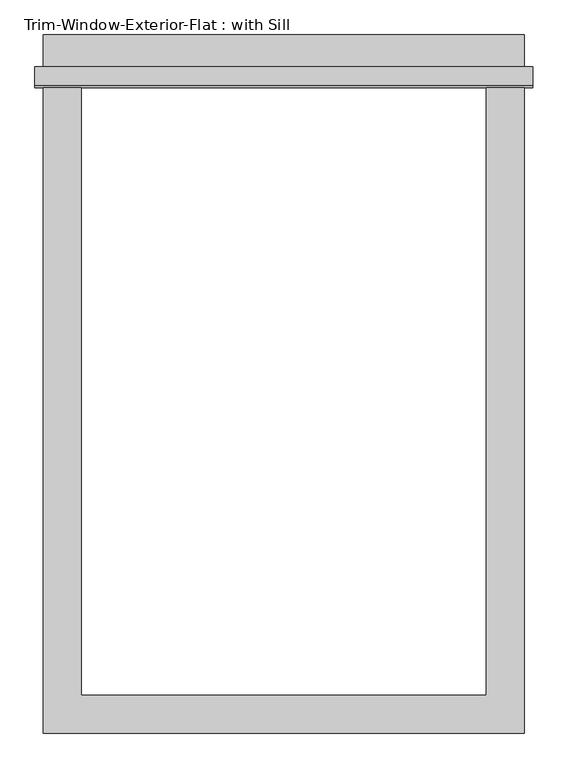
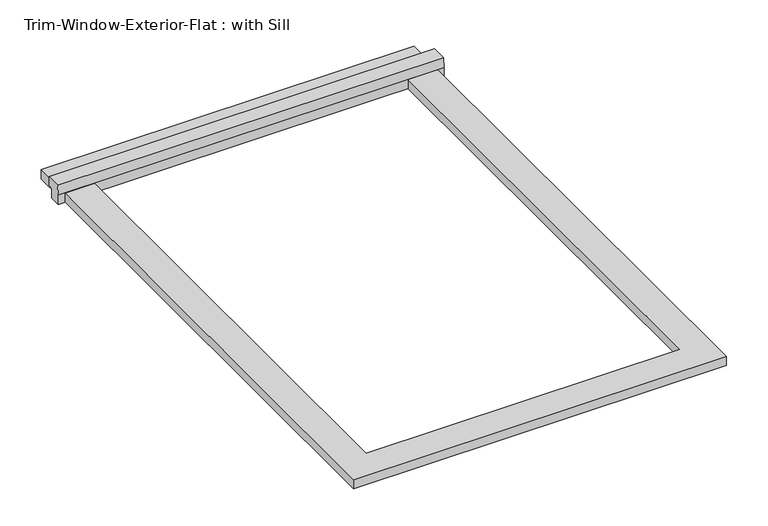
"""IFC4 building model written with IfcOpenShell, lengths in millimetres: proxy geometry, Trim-Window-Exterior-Flat : with Sill."""

import ifcopenshell
import ifcopenshell.guid

model = None  # the IFC model being written
_history = None  # IfcOwnerHistory: only IFC2X3 demands one
_inside = {}  # id of a spatial element -> (the spatial element, [elements in it])
_under = {}  # id of a project, library or spatial element -> (it, [spatial elements below it])
_declared = {}  # id of a project -> (the project, [libraries it declares])
_typed = {}  # id of a type object -> (the type object, [elements of that type])
_made_of = {}  # id of a material, layer set ... -> (it, [elements and type objects made of it])


def new_model(schema):
    """Start an empty IFC model of exactly this schema.

    Asked for "IFC4X3", IfcOpenShell would pick the latest addendum, in which some entities
    have other attributes; the version numbers below select the first issue.
    IFC2X3 requires an IfcOwnerHistory on every rooted entity: one is made here for all.
    """
    global model, _history
    if schema == "IFC4X3":
        model = ifcopenshell.file(schema_version=(4, 3, 0, 0))
    else:
        model = ifcopenshell.file(schema=schema)
    _inside.clear()
    _under.clear()
    _declared.clear()
    _typed.clear()
    _made_of.clear()
    _history = None
    if model.schema == "IFC2X3":
        org = make("IfcOrganization", Name="unknown")
        user = make(
            "IfcPersonAndOrganization",
            ThePerson=make("IfcPerson", FamilyName="unknown"),
            TheOrganization=org,
        )
        app = make(
            "IfcApplication",
            ApplicationDeveloper=org,
            Version="unknown",
            ApplicationFullName="unknown",
            ApplicationIdentifier="unknown",
        )
        _history = make(
            "IfcOwnerHistory",
            OwningUser=user,
            OwningApplication=app,
            ChangeAction="ADDED",
            CreationDate=0,
        )
    return model


def make(cls, **values):
    """One entity of the class cls with the attributes given. An attribute that is None is left unset."""
    return model.create_entity(
        cls, **{name: value for name, value in values.items() if value is not None}
    )


def rooted(cls, **values):
    """An entity with a GlobalId (a new one), such as an element, a storey or a relation."""
    return make(cls, GlobalId=ifcopenshell.guid.new(), OwnerHistory=_history, **values)


def si_unit(unit_type, name, prefix=None):
    """IfcSIUnit, for example si_unit("LENGTHUNIT", "METRE", prefix="MILLI")."""
    return make("IfcSIUnit", UnitType=unit_type, Prefix=prefix, Name=name)


def assignment(units):
    """IfcUnitAssignment: the units of a project."""
    return None if units is None else make("IfcUnitAssignment", Units=units)


def point(xyz):
    """IfcCartesianPoint."""
    return None if xyz is None else make("IfcCartesianPoint", Coordinates=xyz)


def direction(xyz):
    """IfcDirection."""
    return None if xyz is None else make("IfcDirection", DirectionRatios=xyz)


def frame(location, z_axis=None, x_axis=None):
    """IfcAxis2Placement3D, a coordinate frame: its origin and axes. An axis left out is left unset."""
    return make(
        "IfcAxis2Placement3D",
        Location=point(location),
        Axis=direction(z_axis),
        RefDirection=direction(x_axis),
    )


def origin():
    """The frame at (0, 0, 0) with its axes left unset."""
    return frame((0.0, 0.0, 0.0))


def origin_with_axes():
    """The frame at (0, 0, 0) with the z axis (0, 0, 1) and the x axis (1, 0, 0) written out."""
    return frame((0.0, 0.0, 0.0), z_axis=(0.0, 0.0, 1.0), x_axis=(1.0, 0.0, 0.0))


def place(relative_to, where):
    """IfcLocalPlacement: puts the frame where relative to a parent placement (None: the world)."""
    return make(
        "IfcLocalPlacement", PlacementRelTo=relative_to, RelativePlacement=where
    )


def context(
    kind, dimensions, precision=None, world=None, true_north=None, identifier=None
):
    """IfcGeometricRepresentationContext, for example the 3D "Model" context."""
    return make(
        "IfcGeometricRepresentationContext",
        ContextIdentifier=identifier,
        ContextType=kind,
        CoordinateSpaceDimension=dimensions,
        Precision=precision,
        WorldCoordinateSystem=world,
        TrueNorth=true_north,
    )


def project(units=None, contexts=None):
    """IfcProject with its units and contexts."""
    return rooted(
        "IfcProject",
        Name="project",
        RepresentationContexts=contexts,
        UnitsInContext=assignment(units),
    )


def spatial(cls, under=None, at=None, **own):
    """A site, building, storey or space (cls), placed at a placement, below another one or the project."""
    s = rooted(cls, ObjectPlacement=at, **own)
    if under is not None:
        _under.setdefault(under.id(), (under, []))[1].append(s)
    return s


def polyline(points):
    """IfcPolyline through the points."""
    return make("IfcPolyline", Points=[point(p) for p in points])


def outline(outer, holes=None, kind="AREA"):
    """IfcArbitraryClosedProfileDef: a profile drawn as a closed curve; with holes, ...WithVoids."""
    if holes is None:
        return make("IfcArbitraryClosedProfileDef", ProfileType=kind, OuterCurve=outer)
    return make(
        "IfcArbitraryProfileDefWithVoids",
        ProfileType=kind,
        OuterCurve=outer,
        InnerCurves=holes,
    )


def extrude(swept, where, along, depth):
    """IfcExtrudedAreaSolid: the profile swept, set in the frame where, extruded along a direction by depth."""
    return make(
        "IfcExtrudedAreaSolid",
        SweptArea=swept,
        Position=where,
        ExtrudedDirection=direction(along),
        Depth=depth,
    )


def shape(context_of_items, identifier, shape_type, items):
    """IfcShapeRepresentation: the items that make up one representation, for example the "Body"."""
    return make(
        "IfcShapeRepresentation",
        ContextOfItems=context_of_items,
        RepresentationIdentifier=identifier,
        RepresentationType=shape_type,
        Items=items,
    )


def source(mapping_origin, context_of_items, identifier, shape_type, items):
    """IfcRepresentationMap: a shape defined once, which mapped items show again and again."""
    return make(
        "IfcRepresentationMap",
        MappingOrigin=mapping_origin,
        MappedRepresentation=shape(context_of_items, identifier, shape_type, items),
    )


def transform(
    local_origin,
    x_axis=None,
    y_axis=None,
    z_axis=None,
    scale=None,
    scale2=None,
    scale3=None,
    uniform=True,
):
    """IfcCartesianTransformationOperator3D, or its non-uniform kind. x_axis, y_axis, z_axis: its Axis1, 2, 3."""
    if uniform:
        return make(
            "IfcCartesianTransformationOperator3D",
            Axis1=direction(x_axis),
            Axis2=direction(y_axis),
            LocalOrigin=point(local_origin),
            Scale=scale,
            Axis3=direction(z_axis),
        )
    return make(
        "IfcCartesianTransformationOperator3DnonUniform",
        Axis1=direction(x_axis),
        Axis2=direction(y_axis),
        LocalOrigin=point(local_origin),
        Scale=scale,
        Axis3=direction(z_axis),
        Scale2=scale2,
        Scale3=scale3,
    )


def mapped(mapping_source, mapping_target):
    """IfcMappedItem: shows the shape of a source again, moved by a transform."""
    return make(
        "IfcMappedItem", MappingSource=mapping_source, MappingTarget=mapping_target
    )


def made_of(thing, what):
    """Note that an element or type object is made of a material, layer set ...; save() writes the relation."""
    if what is not None:
        _made_of.setdefault(what.id(), (what, []))[1].append(thing)
    return thing


def element(
    cls,
    number,
    at=None,
    inside=None,
    cuts=None,
    type_object=None,
    material=None,
    context=None,
    identifier="Body",
    shape_type=None,
    held_by="IfcProductDefinitionShape",
    body=None,
    shapes=None,
    **own,
):
    """One element of the class cls, such as IfcWall. Its Tag is "e" and its number.

    at: its placement. inside: the storey or other place that contains it. cuts: it is an
    opening in that element (IfcRelVoidsElement). A single representation is given by context,
    identifier, shape_type and body (its items); several are given by shapes. held_by: the class
    of the entity that holds the representations. save() writes the other relations.
    """
    e = rooted(cls, Tag="e%d" % number, ObjectPlacement=at, **own)
    if body is not None:
        shapes = [shape(context, identifier, shape_type, body)]
    if shapes is not None:
        e.Representation = make(held_by, Representations=shapes)
    if inside is not None:
        _inside.setdefault(inside.id(), (inside, []))[1].append(e)
    if cuts is not None:
        rooted(
            "IfcRelVoidsElement", RelatingBuildingElement=cuts, RelatedOpeningElement=e
        )
    if type_object is not None:
        _typed.setdefault(type_object.id(), (type_object, []))[1].append(e)
    return made_of(e, material)


def aggregate(whole, parts):
    """IfcRelAggregates: a whole, such as a stair, and the parts it consists of."""
    return rooted("IfcRelAggregates", RelatingObject=whole, RelatedObjects=parts)


def save(model, path):
    """Write the relations noted so far, then the file.

    IfcRelAggregates (storeys below a building ...), IfcRelContainedInSpatialStructure (elements
    in a storey), IfcRelDefinesByType, IfcRelAssociatesMaterial and IfcRelDeclares: one each for
    every whole, place, type object, material and project.
    """
    for whole, parts in _under.values():
        aggregate(whole, parts)
    for where, things in _inside.values():
        rooted(
            "IfcRelContainedInSpatialStructure",
            RelatedElements=things,
            RelatingStructure=where,
        )
    for kind, things in _typed.values():
        rooted("IfcRelDefinesByType", RelatedObjects=things, RelatingType=kind)
    for what, things in _made_of.values():
        rooted("IfcRelAssociatesMaterial", RelatedObjects=things, RelatingMaterial=what)
    for by, libraries in _declared.values():
        rooted("IfcRelDeclares", RelatingContext=by, RelatedDefinitions=libraries)
    model.write(path)


def trim_window_exterior_flat_with_sill_4c72db77(model_context):
    return source(origin(), model_context, "Body", "SweptSolid", [
        extrude(outline(polyline([(361.95, 936.5823709), (-361.95, 936.5823709), (-361.95, 993.7323709), (361.95, 993.7323709), (361.95, 936.5823709)])), origin_with_axes(), (0.0, 0.0, 1.0), 19.05),
        extrude(outline(polyline([(946.15, 38.1), (946.15, 19.05), (936.5823709, 19.05), (936.5823709, 0.0), (914.4, 0.0), (914.4, 19.05), (916.8580645, 38.1), (946.15, 38.1)])), frame((-374.65, 0.0, 0.0), z_axis=(1.0, 0.0, 0.0), x_axis=(0.0, 1.0, 0.0)), (0.0, 0.0, 1.0), 749.3),
        extrude(outline(polyline([(-361.95, -57.15), (-361.95, 914.4), (-304.8, 914.4), (-304.8, 0.0), (304.8, 0.0), (304.8, 914.4), (361.95, 914.4), (361.95, -57.15), (-361.95, -57.15)])), origin_with_axes(), (0.0, 0.0, 1.0), 19.05),
    ])


if __name__ == "__main__":
    model = new_model("IFC4")
    model_context = context("Model", 3, world=origin())
    ifc_project = project(units=[si_unit("LENGTHUNIT", "METRE", prefix="MILLI")], contexts=[model_context])
    site = spatial("IfcSite", under=ifc_project)
    building = spatial("IfcBuilding", under=site)
    placement = place(None, origin())
    trim_window_exterior_flat_with_sill_shape = trim_window_exterior_flat_with_sill_4c72db77(model_context)
    element("IfcBuildingElementProxy", 1, Name="Trim-Window-Exterior-Flat : with Sill", ObjectType="Trim-Window-Exterior-Flat : with Sill", at=placement, inside=building, context=model_context, shape_type="MappedRepresentation", body=[
        mapped(trim_window_exterior_flat_with_sill_shape, transform((0.0, 0.0, 0.0), x_axis=(1.0, 0.0, 0.0), y_axis=(0.0, 1.0, 0.0), z_axis=(0.0, 0.0, 1.0))),
    ])
    save(model, "model.ifc")
